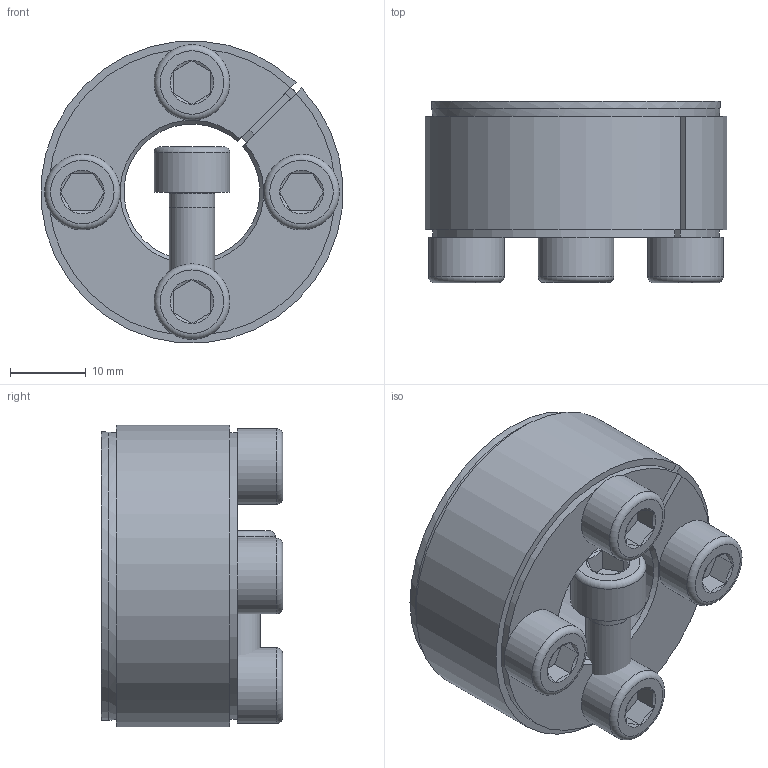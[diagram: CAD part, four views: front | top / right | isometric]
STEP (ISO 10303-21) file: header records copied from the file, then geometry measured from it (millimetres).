
FILE_DESCRIPTION( ( 'Unknown' ), '1' );
FILE_NAME( 'C:/Dokumente und Einstellungen/Sven/Desktop/homepage/cad - homepage/KBS52/KBS 52 - 18 x 40.stp', 'Unknown', ( 'Unknown' ), ( 'Unknown' ), 'XStep 1.0', 'Unknown', ' ' );
FILE_SCHEMA( ( 'automotive_design' ) );
Length unit declared in the file: millimetre
Products named in the file (3): Assem1; KBS 52 - 18 x 40; ISO EN DIN 4762 M6x18
Bounding box: 39.89 x 24 x 39.89 mm (x, y, z)
Volume: 35472.6 mm3; surface area: 16758.7 mm2
Topology: 7 solids, 7 shells, 173 faces, 349 edges, 208 vertices
Faces by surface type: plane 86, cone 41, cylinder 36, torus 10
Full cylindrical faces by diameter (mm): 5 x5, 6 x18, 10 x5, 38.175 x2
Entity records: 1549 total; most frequent: CARTESIAN_POINT 259, DIRECTION 231, ORIENTED_EDGE 180, AXIS2_PLACEMENT_3D 94, EDGE_CURVE 90, EDGE_LOOP 76, VERTEX_POINT 62, FACE_OUTER_BOUND 60
